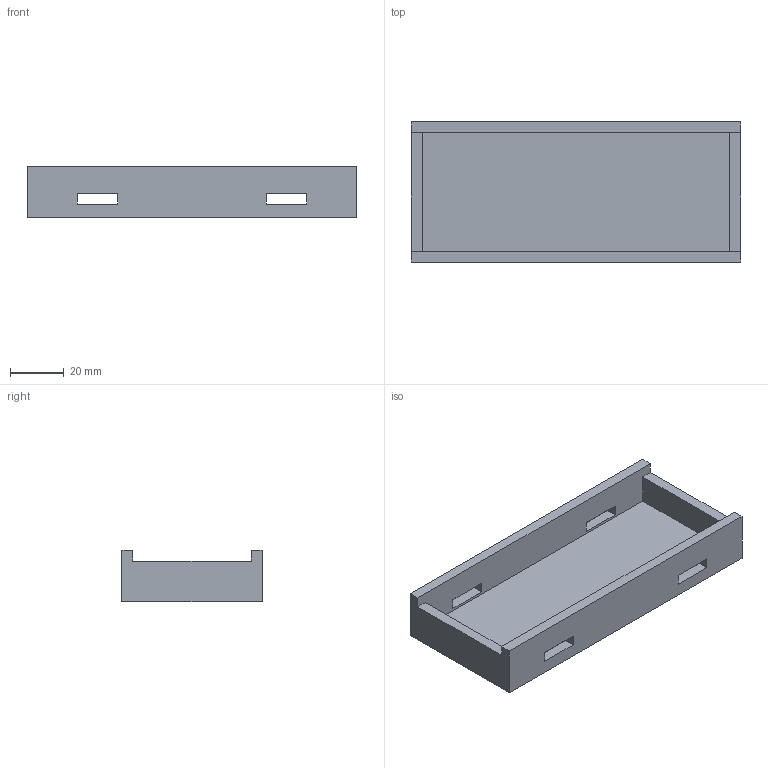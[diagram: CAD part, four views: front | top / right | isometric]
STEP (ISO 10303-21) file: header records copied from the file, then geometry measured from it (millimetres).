
FILE_DESCRIPTION(('Open CASCADE Model'),'2;1');
FILE_NAME('Open CASCADE Shape Model','2026-09-04T19:26:43',('Author'),( 'Open CASCADE'),'Open CASCADE STEP processor 7.9','Open CASCADE 7.9' ,'Unknown');
FILE_SCHEMA(('AUTOMOTIVE_DESIGN { 1 0 10303 214 1 1 1 1 }'));
Length unit declared in the file: millimetre
Products named in the file (1): COMPOUND
Bounding box: 122 x 52 x 19 mm (x, y, z)
Volume: 42928 mm3; surface area: 23528 mm2
Topology: 1 solids, 1 shells, 30 faces, 84 edges, 56 vertices
Faces by surface type: plane 30
Entity records: 2026 total; most frequent: CARTESIAN_POINT 395, DIRECTION 258, LINE 196, VECTOR 196, ORIENTED_EDGE 168, PCURVE 168, DEFINITIONAL_REPRESENTATION 168, EDGE_CURVE 84
